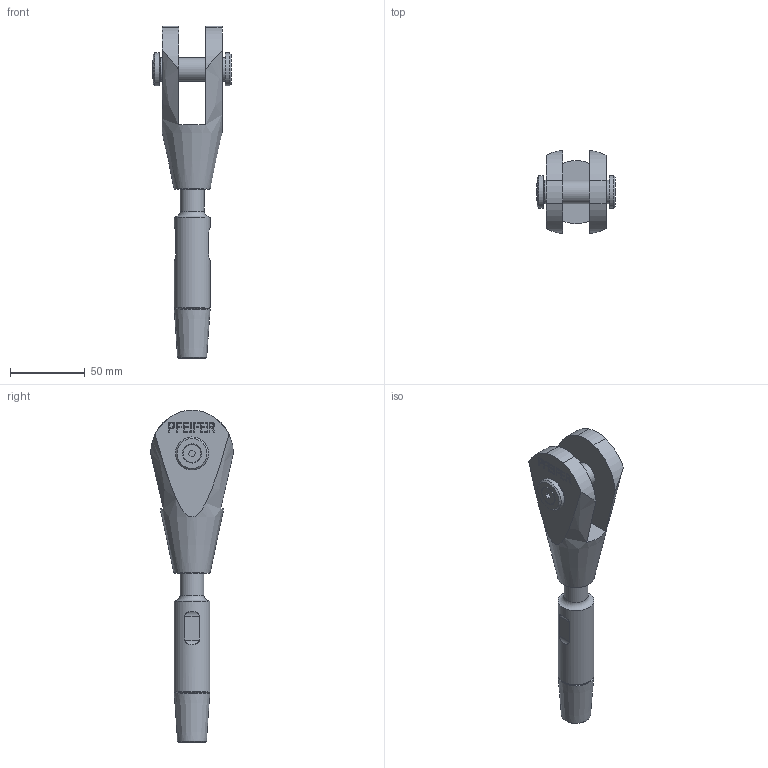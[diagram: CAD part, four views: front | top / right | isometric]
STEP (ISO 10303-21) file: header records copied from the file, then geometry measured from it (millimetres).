
FILE_DESCRIPTION(/* description */ (''),/* implementation_level */ '2;1');
FILE_NAME(/* name */ 'G:\Engineering\700 CAD\Internet-PX-1-step-igs-dxf\520-GAK-ADA-Arbeitsdateien\520-016-GAK-ADA.stp',/* time_stamp */ '2020-07-03T13:04:38+02:00',/* author */ ('schwarz'),/* organization */ (''),/* preprocessor_version */ 'ST-DEVELOPER v16.1',/* originating_system */ 'Autodesk Inventor 2016',/* authorisation */ '');
FILE_SCHEMA (('AUTOMOTIVE_DESIGN { 1 0 10303 214 3 1 1 }'));
Length unit declared in the file: centimetre
Products named in the file (1): 520-016-GAK-ADA-Kunde
Bounding box: 52.21 x 55.15 x 221.5 mm (x, y, z)
Volume: 141230.4 mm3; surface area: 34338.2 mm2
Topology: 2 solids, 3 shells, 197 faces, 505 edges, 335 vertices
Faces by surface type: plane 140, cylinder 22, bspline 21, cone 12, torus 2
Full cylindrical faces by diameter (mm): 4.917 x1, 6 x1, 6.8 x1, 12 x1, 16 x2, 16.8 x1, 18 x2, 22 x2, 24 x1
Entity records: 6130 total; most frequent: CARTESIAN_POINT 1389, ORIENTED_EDGE 942, DIRECTION 814, EDGE_CURVE 471, LINE 362, VECTOR 362, VERTEX_POINT 327, EDGE_LOOP 248
